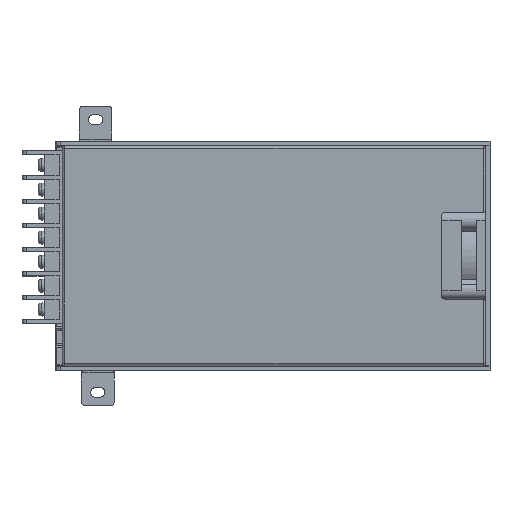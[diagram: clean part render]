
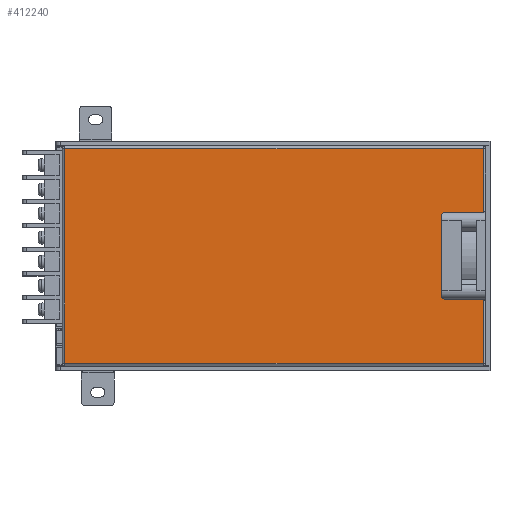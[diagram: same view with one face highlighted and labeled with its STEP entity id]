
A CAD part, top view. The second image highlights one B-rep face of the part: STEP entity #412240.
In plain terms, the highlighted planar face has unit normal (0, 0, 1).
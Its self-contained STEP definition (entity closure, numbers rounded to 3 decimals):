
#382890=CARTESIAN_POINT('',(259.978,164.058,41.));
#382900=VERTEX_POINT('',#382890);
#385050=CARTESIAN_POINT('',(259.978,65.658,41.));
#385060=VERTEX_POINT('',#385050);
#385960=CARTESIAN_POINT('',(68.178,65.658,41.));
#385970=VERTEX_POINT('',#385960);
#386690=CARTESIAN_POINT('',(240.728,101.647,41.
));
#386700=DIRECTION('',(0.,-1.,0.));
#386710=VECTOR('',#386700,1.);
#386720=LINE('',#386690,#386710);
#386730=CARTESIAN_POINT('',(240.728,133.158,41.));
#386740=VERTEX_POINT('',#386730);
#386750=CARTESIAN_POINT('',(240.728,96.558,41.));
#386760=VERTEX_POINT('',#386750);
#386770=EDGE_CURVE('',#386740,#386760,#386720,.T.);
#387220=CARTESIAN_POINT('',(68.178,164.058,41.));
#387230=VERTEX_POINT('',#387220);
#388140=CARTESIAN_POINT('',(259.978,101.647,41.
));
#388150=DIRECTION('',(0.,-1.,0.));
#388160=VECTOR('',#388150,1.);
#388170=LINE('',#388140,#388160);
#388180=CARTESIAN_POINT('',(259.978,94.608,41.));
#388190=VERTEX_POINT('',#388180);
#388200=EDGE_CURVE('',#388190,#385060,#388170,.T.);
#388330=CARTESIAN_POINT('',(259.978,135.108,41.));
#388340=VERTEX_POINT('',#388330);
#388350=EDGE_CURVE('',#382900,#388340,#388170,.T.);
#388960=CARTESIAN_POINT('',(68.178,101.647,41.)
);
#388970=DIRECTION('',(0.,1.,0.));
#388980=VECTOR('',#388970,1.);
#388990=LINE('',#388960,#388980);
#389000=EDGE_CURVE('',#385970,#387230,#388990,.T.);
#393020=CARTESIAN_POINT('',(242.228,95.058,41.));
#393030=VERTEX_POINT('',#393020);
#393060=CARTESIAN_POINT('',(242.228,96.558,41.));
#393070=DIRECTION('',(0.,0.,-1.));
#393080=DIRECTION('',(-1.,0.,0.));
#393090=AXIS2_PLACEMENT_3D('',#393060,#393070,#393080);
#393100=CIRCLE('',#393090,1.5);
#393110=EDGE_CURVE('',#393030,#386760,#393100,.T.);
#393420=CARTESIAN_POINT('',(259.978,134.958,41.));
#393430=VERTEX_POINT('',#393420);
#393460=CARTESIAN_POINT('',(259.978,101.647,41.
));
#393470=DIRECTION('',(0.,-1.,0.));
#393480=VECTOR('',#393470,1.);
#393490=LINE('',#393460,#393480);
#393500=EDGE_CURVE('',#388340,#393430,#393490,.T.);
#397360=CARTESIAN_POINT('',(242.228,134.658,41.));
#397370=VERTEX_POINT('',#397360);
#397400=CARTESIAN_POINT('',(108.748,134.658,41.
));
#397410=DIRECTION('',(-1.,0.,0.));
#397420=VECTOR('',#397410,1.);
#397430=LINE('',#397400,#397420);
#397440=CARTESIAN_POINT('',(259.678,134.658,41.));
#397450=VERTEX_POINT('',#397440);
#397460=EDGE_CURVE('',#397450,#397370,#397430,.T.);
#397620=CARTESIAN_POINT('',(108.748,95.058,41.)
);
#397630=DIRECTION('',(1.,0.,0.));
#397640=VECTOR('',#397630,1.);
#397650=LINE('',#397620,#397640);
#397660=CARTESIAN_POINT('',(259.678,95.058,41.));
#397670=VERTEX_POINT('',#397660);
#397680=EDGE_CURVE('',#393030,#397670,#397650,.T.);
#398530=CARTESIAN_POINT('',(259.978,94.758,41.));
#398540=VERTEX_POINT('',#398530);
#398660=CARTESIAN_POINT('',(259.978,101.647,41.
));
#398670=DIRECTION('',(0.,-1.,0.));
#398680=VECTOR('',#398670,1.);
#398690=LINE('',#398660,#398680);
#398700=EDGE_CURVE('',#398540,#388190,#398690,.T.);
#398880=CARTESIAN_POINT('',(242.228,133.158,41.));
#398890=DIRECTION('',(0.,0.,-1.));
#398900=DIRECTION('',(-1.,0.,0.));
#398910=AXIS2_PLACEMENT_3D('',#398880,#398890,#398900);
#398920=CIRCLE('',#398910,1.5);
#398930=EDGE_CURVE('',#386740,#397370,#398920,.T.);
#399290=CARTESIAN_POINT('',(259.678,134.958,41.));
#399300=DIRECTION('',(0.,0.,1.));
#399310=DIRECTION('',(1.,0.,0.));
#399320=AXIS2_PLACEMENT_3D('',#399290,#399300,#399310);
#399330=CIRCLE('',#399320,0.3);
#399340=EDGE_CURVE('',#397450,#393430,#399330,.T.);
#399610=CARTESIAN_POINT('',(259.678,94.758,41.));
#399620=DIRECTION('',(0.,0.,-1.));
#399630=DIRECTION('',(-1.,0.,0.));
#399640=AXIS2_PLACEMENT_3D('',#399610,#399620,#399630);
#399650=CIRCLE('',#399640,0.3);
#399660=EDGE_CURVE('',#397670,#398540,#399650,.T.);
#400640=CARTESIAN_POINT('',(108.748,65.658,41.)
);
#400650=DIRECTION('',(-1.,0.,0.));
#400660=VECTOR('',#400650,1.);
#400670=LINE('',#400640,#400660);
#400680=EDGE_CURVE('',#385060,#385970,#400670,.T.);
#411980=CARTESIAN_POINT('',(69.967,165.158,41.));
#411990=DIRECTION('',(0.,0.,1.));
#412000=DIRECTION('',(1.,0.,0.));
#412010=AXIS2_PLACEMENT_3D('',#411980,#411990,#412000);
#412020=PLANE('',#412010);
#412030=ORIENTED_EDGE('',*,*,#393110,.T.);
#412040=ORIENTED_EDGE('',*,*,#397680,.F.);
#412050=ORIENTED_EDGE('',*,*,#399660,.F.);
#412060=ORIENTED_EDGE('',*,*,#398700,.F.);
#412070=ORIENTED_EDGE('',*,*,#388200,.F.);
#412080=ORIENTED_EDGE('',*,*,#400680,.F.);
#412090=ORIENTED_EDGE('',*,*,#389000,.F.);
#412100=CARTESIAN_POINT('',(108.748,164.058,41.
));
#412110=DIRECTION('',(1.,0.,0.));
#412120=VECTOR('',#412110,1.);
#412130=LINE('',#412100,#412120);
#412140=EDGE_CURVE('',#387230,#382900,#412130,.T.);
#412150=ORIENTED_EDGE('',*,*,#412140,.F.);
#412160=ORIENTED_EDGE('',*,*,#388350,.F.);
#412170=ORIENTED_EDGE('',*,*,#393500,.F.);
#412180=ORIENTED_EDGE('',*,*,#399340,.T.);
#412190=ORIENTED_EDGE('',*,*,#397460,.F.);
#412200=ORIENTED_EDGE('',*,*,#398930,.T.);
#412210=ORIENTED_EDGE('',*,*,#386770,.F.);
#412220=EDGE_LOOP('',(#412210,#412200,#412190,#412180,#412170,#412160,
#412150,#412090,#412080,#412070,#412060,#412050,#412040,#412030));
#412230=FACE_OUTER_BOUND('',#412220,.T.);
#412240=ADVANCED_FACE('',(#412230),#412020,.T.);
